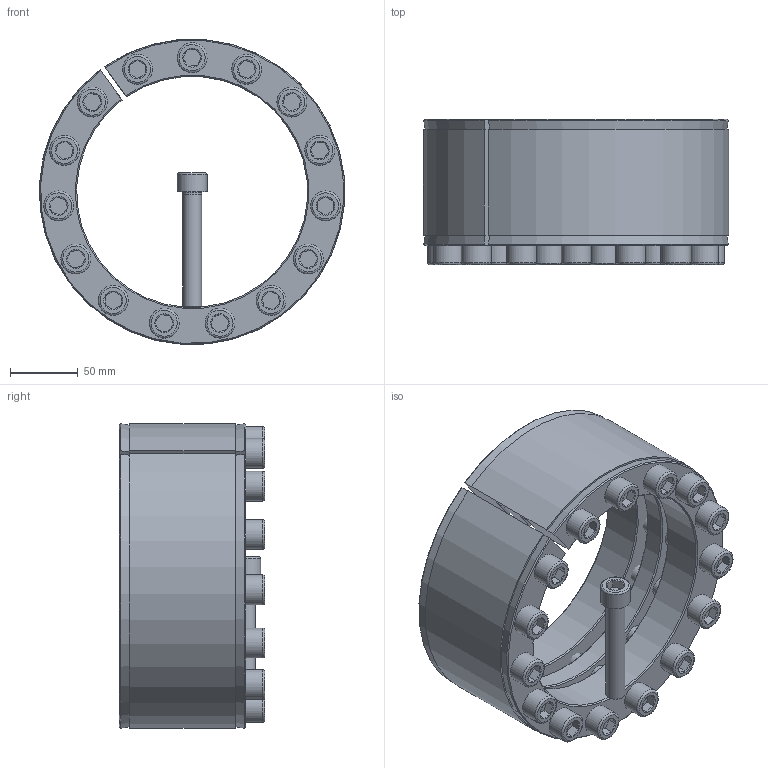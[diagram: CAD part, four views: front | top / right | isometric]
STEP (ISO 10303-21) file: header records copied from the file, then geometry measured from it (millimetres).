
FILE_DESCRIPTION( ( 'Unknown' ), '1' );
FILE_NAME( 'C:/Users/Frank/Eigene Daten/CAD/Solid Edge/KBK Karpstein/KBS Layout Baureihen/KBS 18/KBS - 170 x 225.stp', 'Unknown', ( 'Unknown' ), ( 'Unknown' ), 'XStep 1.0', 'Unknown', ' ' );
FILE_SCHEMA( ( 'automotive_design' ) );
Length unit declared in the file: millimetre
Products named in the file (3): Assem1; KBS 18 - 170 x 225; ISO EN DIN 4762 M14x85
Bounding box: 224.5 x 107 x 224.36 mm (x, y, z)
Volume: 2613808 mm3; surface area: 572173.3 mm2
Topology: 18 solids, 18 shells, 572 faces, 1282 edges, 750 vertices
Faces by surface type: plane 242, cylinder 162, cone 136, torus 32
Full cylindrical faces by diameter (mm): 11.835 x30, 12 x16, 14 x32, 15.5 x60, 22 x16
Entity records: 4390 total; most frequent: CARTESIAN_POINT 1126, DIRECTION 674, ORIENTED_EDGE 544, AXIS2_PLACEMENT_3D 319, EDGE_CURVE 272, EDGE_LOOP 227, VERTEX_POINT 191, CIRCLE 191
